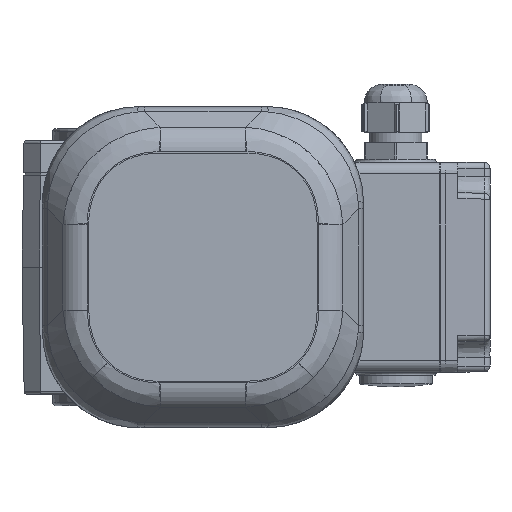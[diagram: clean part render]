
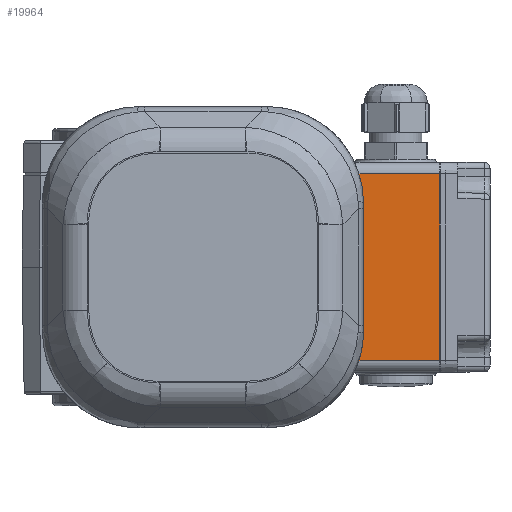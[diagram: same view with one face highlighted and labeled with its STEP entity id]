
A CAD part, left-side view. The second image highlights one B-rep face of the part: STEP entity #19964.
In plain terms, the highlighted planar face has unit normal (-1, 0, 0).
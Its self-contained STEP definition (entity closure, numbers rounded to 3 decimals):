
#743 = CARTESIAN_POINT ( 'NONE',  ( -34., -32., 0. ) ) ;
#2421 = PLANE ( 'NONE',  #33340 ) ;
#3226 = VECTOR ( 'NONE', #11836, 1000. ) ;
#6325 = LINE ( 'NONE', #19169, #22419 ) ;
#6800 = DIRECTION ( 'NONE',  ( 0., 1., 0. ) ) ;
#6913 = LINE ( 'NONE', #49357, #43891 ) ;
#7182 = VERTEX_POINT ( 'NONE', #14834 ) ;
#8372 = EDGE_CURVE ( 'NONE', #47749, #10279, #6913, .T. ) ;
#9862 = ORIENTED_EDGE ( 'NONE', *, *, #14016, .F. ) ;
#10279 = VERTEX_POINT ( 'NONE', #743 ) ;
#11836 = DIRECTION ( 'NONE',  ( 0., 0., 1. ) ) ;
#11923 = EDGE_CURVE ( 'NONE', #10279, #7182, #11989, .T. ) ;
#11989 = LINE ( 'NONE', #50100, #43429 ) ;
#13688 = VERTEX_POINT ( 'NONE', #44335 ) ;
#14016 = EDGE_CURVE ( 'NONE', #47749, #13688, #6325, .T. ) ;
#14834 = CARTESIAN_POINT ( 'NONE',  ( -34., 32., 0. ) ) ;
#19169 = CARTESIAN_POINT ( 'NONE',  ( -34., 0., -30. ) ) ;
#19964 = ADVANCED_FACE ( 'NONE', ( #23279 ), #2421, .F. ) ;
#21831 = DIRECTION ( 'NONE',  ( 0., 0., 1. ) ) ;
#21856 = ORIENTED_EDGE ( 'NONE', *, *, #8372, .T. ) ;
#22039 = ORIENTED_EDGE ( 'NONE', *, *, #35157, .F. ) ;
#22419 = VECTOR ( 'NONE', #27130, 1000. ) ;
#23279 = FACE_OUTER_BOUND ( 'NONE', #42749, .T. ) ;
#26274 = DIRECTION ( 'NONE',  ( 0., 0., -1. ) ) ;
#27130 = DIRECTION ( 'NONE',  ( 0., 1., 0. ) ) ;
#31669 = CARTESIAN_POINT ( 'NONE',  ( -34., 32., -15. ) ) ;
#33340 = AXIS2_PLACEMENT_3D ( 'NONE', #41715, #37793, #26274 ) ;
#35157 = EDGE_CURVE ( 'NONE', #13688, #7182, #46431, .T. ) ;
#37793 = DIRECTION ( 'NONE',  ( 1., 0., 0. ) ) ;
#38950 = CARTESIAN_POINT ( 'NONE',  ( -34., -32., -30. ) ) ;
#41715 = CARTESIAN_POINT ( 'NONE',  ( -34., -32., 0. ) ) ;
#42749 = EDGE_LOOP ( 'NONE', ( #9862, #21856, #47046, #22039 ) ) ;
#43429 = VECTOR ( 'NONE', #6800, 1000. ) ;
#43891 = VECTOR ( 'NONE', #21831, 1000. ) ;
#44335 = CARTESIAN_POINT ( 'NONE',  ( -34., 32., -30. ) ) ;
#46431 = LINE ( 'NONE', #31669, #3226 ) ;
#47046 = ORIENTED_EDGE ( 'NONE', *, *, #11923, .T. ) ;
#47749 = VERTEX_POINT ( 'NONE', #38950 ) ;
#49357 = CARTESIAN_POINT ( 'NONE',  ( -34., -32., -15. ) ) ;
#50100 = CARTESIAN_POINT ( 'NONE',  ( -34., 0., 0. ) ) ;
